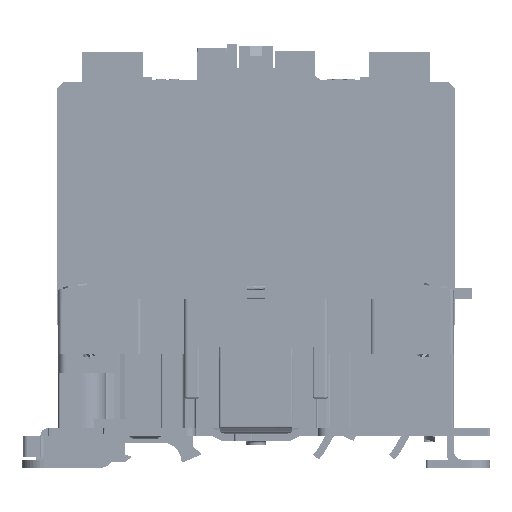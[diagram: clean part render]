
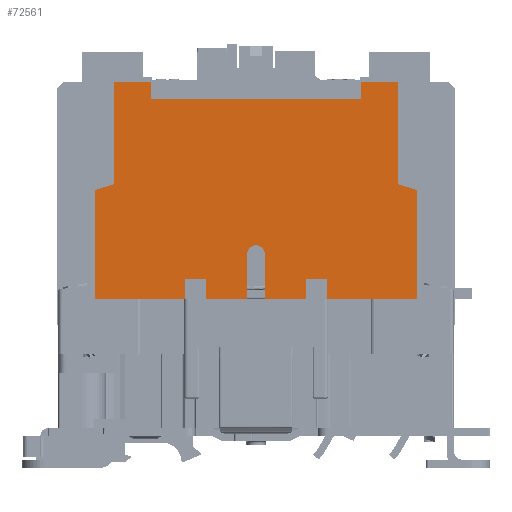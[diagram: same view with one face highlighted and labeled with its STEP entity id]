
A CAD part, front view. The second image highlights one B-rep face of the part: STEP entity #72561.
In plain terms, the highlighted planar face has unit normal (0, -1, 0) as drawn and (1, 0, 0) by its records, which use the part's own axes.
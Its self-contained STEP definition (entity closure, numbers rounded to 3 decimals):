
#69413=DIRECTION('',(0.,0.,-1.));
#69414=VECTOR('',#69413,24.3);
#69415=CARTESIAN_POINT('',(64.05,0.,-19.2));
#69416=LINE('',#69415,#69414);
#69481=DIRECTION('',(0.,0.,-1.));
#69482=VECTOR('',#69481,11.15);
#69483=CARTESIAN_POINT('',(64.05,0.,-2.35));
#69484=LINE('',#69483,#69482);
#69509=DIRECTION('',(0.,0.,-1.));
#69510=VECTOR('',#69509,24.3);
#69511=CARTESIAN_POINT('',(64.05,0.,43.5));
#69512=LINE('',#69511,#69510);
#69525=DIRECTION('',(0.,0.,-1.));
#69526=VECTOR('',#69525,11.15);
#69527=CARTESIAN_POINT('',(64.05,0.,13.5));
#69528=LINE('',#69527,#69526);
#69958=DIRECTION('',(0.,0.,-1.));
#69959=VECTOR('',#69958,10.);
#69960=CARTESIAN_POINT('',(64.05,58.7,38.5));
#69961=LINE('',#69960,#69959);
#69966=DIRECTION('',(0.,0.,-1.));
#69967=VECTOR('',#69966,10.);
#69968=CARTESIAN_POINT('',(64.05,58.7,-28.5));
#69969=LINE('',#69968,#69967);
#70144=DIRECTION('',(0.,1.,0.));
#70145=VECTOR('',#70144,5.3);
#70146=CARTESIAN_POINT('',(64.05,0.,13.5));
#70147=LINE('',#70146,#70145);
#70148=DIRECTION('',(0.,0.,1.));
#70149=VECTOR('',#70148,5.7);
#70150=CARTESIAN_POINT('',(64.05,5.3,13.5));
#70151=LINE('',#70150,#70149);
#70152=DIRECTION('',(0.,1.,0.));
#70153=VECTOR('',#70152,5.3);
#70154=CARTESIAN_POINT('',(64.05,0.,19.2));
#70155=LINE('',#70154,#70153);
#70156=DIRECTION('',(0.,1.,0.));
#70157=VECTOR('',#70156,29.5);
#70158=CARTESIAN_POINT('',(64.05,0.,43.5));
#70159=LINE('',#70158,#70157);
#70160=DIRECTION('',(0.,0.287,-0.958));
#70161=VECTOR('',#70160,5.22);
#70162=CARTESIAN_POINT('',(64.05,29.5,43.5));
#70163=LINE('',#70162,#70161);
#70164=DIRECTION('',(0.,-1.,0.));
#70165=VECTOR('',#70164,27.7);
#70166=CARTESIAN_POINT('',(64.05,58.7,38.5));
#70167=LINE('',#70166,#70165);
#70168=DIRECTION('',(0.,-1.,0.));
#70169=VECTOR('',#70168,4.6);
#70170=CARTESIAN_POINT('',(64.05,58.7,28.5));
#70171=LINE('',#70170,#70169);
#70172=DIRECTION('',(0.,0.,-1.));
#70173=VECTOR('',#70172,57.);
#70174=CARTESIAN_POINT('',(64.05,54.1,28.5));
#70175=LINE('',#70174,#70173);
#70176=DIRECTION('',(0.,-1.,0.));
#70177=VECTOR('',#70176,4.6);
#70178=CARTESIAN_POINT('',(64.05,58.7,-28.5));
#70179=LINE('',#70178,#70177);
#70180=DIRECTION('',(0.,-1.,0.));
#70181=VECTOR('',#70180,27.7);
#70182=CARTESIAN_POINT('',(64.05,58.7,-38.5));
#70183=LINE('',#70182,#70181);
#70184=DIRECTION('',(0.,-0.287,-0.958));
#70185=VECTOR('',#70184,5.22);
#70186=CARTESIAN_POINT('',(64.05,31.,-38.5));
#70187=LINE('',#70186,#70185);
#70188=DIRECTION('',(0.,1.,0.));
#70189=VECTOR('',#70188,29.5);
#70190=CARTESIAN_POINT('',(64.05,0.,-43.5));
#70191=LINE('',#70190,#70189);
#70192=DIRECTION('',(0.,1.,0.));
#70193=VECTOR('',#70192,5.3);
#70194=CARTESIAN_POINT('',(64.05,0.,-19.2));
#70195=LINE('',#70194,#70193);
#70196=DIRECTION('',(0.,0.,1.));
#70197=VECTOR('',#70196,5.7);
#70198=CARTESIAN_POINT('',(64.05,5.3,-19.2));
#70199=LINE('',#70198,#70197);
#70200=DIRECTION('',(0.,1.,0.));
#70201=VECTOR('',#70200,5.3);
#70202=CARTESIAN_POINT('',(64.05,0.,-13.5));
#70203=LINE('',#70202,#70201);
#70204=DIRECTION('',(0.,1.,0.));
#70205=VECTOR('',#70204,12.15);
#70206=CARTESIAN_POINT('',(64.05,0.,-2.35));
#70207=LINE('',#70206,#70205);
#70208=CARTESIAN_POINT('',(64.05,12.15,0.));
#70209=DIRECTION('',(-1.,0.,0.));
#70210=DIRECTION('',(0.,0.,1.));
#70211=AXIS2_PLACEMENT_3D('',#70208,#70209,#70210);
#70213=DIRECTION('',(0.,1.,0.));
#70214=VECTOR('',#70213,12.15);
#70215=CARTESIAN_POINT('',(64.05,0.,2.35));
#70216=LINE('',#70215,#70214);
#71141=CARTESIAN_POINT('',(64.05,54.1,28.5));
#71142=CARTESIAN_POINT('',(64.05,54.1,-28.5));
#71143=VERTEX_POINT('',#71141);
#71144=VERTEX_POINT('',#71142);
#71145=CARTESIAN_POINT('',(64.05,58.7,-28.5));
#71146=VERTEX_POINT('',#71145);
#71147=CARTESIAN_POINT('',(64.05,58.7,28.5));
#71148=VERTEX_POINT('',#71147);
#71317=CARTESIAN_POINT('',(64.05,0.,43.5));
#71319=VERTEX_POINT('',#71317);
#71321=CARTESIAN_POINT('',(64.05,0.,-43.5));
#71323=VERTEX_POINT('',#71321);
#71325=CARTESIAN_POINT('',(64.05,58.7,38.5));
#71327=VERTEX_POINT('',#71325);
#71329=CARTESIAN_POINT('',(64.05,58.7,-38.5));
#71331=VERTEX_POINT('',#71329);
#71333=CARTESIAN_POINT('',(64.05,29.5,43.5));
#71334=VERTEX_POINT('',#71333);
#71335=CARTESIAN_POINT('',(64.05,31.,38.5));
#71336=VERTEX_POINT('',#71335);
#71337=CARTESIAN_POINT('',(64.05,31.,-38.5));
#71338=VERTEX_POINT('',#71337);
#71339=CARTESIAN_POINT('',(64.05,29.5,-43.5));
#71340=VERTEX_POINT('',#71339);
#71510=CARTESIAN_POINT('',(64.05,0.,2.35));
#71512=VERTEX_POINT('',#71510);
#71514=CARTESIAN_POINT('',(64.05,0.,-2.35));
#71516=VERTEX_POINT('',#71514);
#71521=CARTESIAN_POINT('',(64.05,12.15,2.35));
#71522=VERTEX_POINT('',#71521);
#71523=CARTESIAN_POINT('',(64.05,12.15,-2.35));
#71524=VERTEX_POINT('',#71523);
#71573=CARTESIAN_POINT('',(64.05,0.,13.5));
#71574=VERTEX_POINT('',#71573);
#71575=CARTESIAN_POINT('',(64.05,0.,19.2));
#71576=VERTEX_POINT('',#71575);
#71577=CARTESIAN_POINT('',(64.05,0.,-13.5));
#71578=VERTEX_POINT('',#71577);
#71579=CARTESIAN_POINT('',(64.05,0.,-19.2));
#71580=VERTEX_POINT('',#71579);
#71581=CARTESIAN_POINT('',(64.05,5.3,13.5));
#71582=VERTEX_POINT('',#71581);
#71583=CARTESIAN_POINT('',(64.05,5.3,19.2));
#71584=VERTEX_POINT('',#71583);
#71585=CARTESIAN_POINT('',(64.05,5.3,-13.5));
#71586=VERTEX_POINT('',#71585);
#71587=CARTESIAN_POINT('',(64.05,5.3,-19.2));
#71588=VERTEX_POINT('',#71587);
#72514=CARTESIAN_POINT('',(64.05,0.,53.75));
#72515=DIRECTION('',(1.,0.,0.));
#72516=DIRECTION('',(0.,0.,-1.));
#72517=AXIS2_PLACEMENT_3D('',#72514,#72515,#72516);
#72518=PLANE('',#72517);
#72520=ORIENTED_EDGE('',*,*,#72519,.T.);
#72522=ORIENTED_EDGE('',*,*,#72521,.T.);
#72524=ORIENTED_EDGE('',*,*,#72523,.F.);
#72525=ORIENTED_EDGE('',*,*,#71826,.F.);
#72527=ORIENTED_EDGE('',*,*,#72526,.T.);
#72528=ORIENTED_EDGE('',*,*,#72507,.T.);
#72529=ORIENTED_EDGE('',*,*,#72464,.F.);
#72530=ORIENTED_EDGE('',*,*,#72314,.T.);
#72532=ORIENTED_EDGE('',*,*,#72531,.T.);
#72534=ORIENTED_EDGE('',*,*,#72533,.T.);
#72536=ORIENTED_EDGE('',*,*,#72535,.F.);
#72537=ORIENTED_EDGE('',*,*,#72326,.T.);
#72539=ORIENTED_EDGE('',*,*,#72538,.T.);
#72541=ORIENTED_EDGE('',*,*,#72540,.T.);
#72543=ORIENTED_EDGE('',*,*,#72542,.F.);
#72544=ORIENTED_EDGE('',*,*,#71734,.F.);
#72546=ORIENTED_EDGE('',*,*,#72545,.T.);
#72548=ORIENTED_EDGE('',*,*,#72547,.T.);
#72550=ORIENTED_EDGE('',*,*,#72549,.F.);
#72551=ORIENTED_EDGE('',*,*,#71770,.F.);
#72553=ORIENTED_EDGE('',*,*,#72552,.T.);
#72555=ORIENTED_EDGE('',*,*,#72554,.F.);
#72557=ORIENTED_EDGE('',*,*,#72556,.F.);
#72558=ORIENTED_EDGE('',*,*,#71834,.F.);
#72559=EDGE_LOOP('',(#72520,#72522,#72524,#72525,#72527,#72528,#72529,#72530,
#72532,#72534,#72536,#72537,#72539,#72541,#72543,#72544,#72546,#72548,#72550,
#72551,#72553,#72555,#72557,#72558));
#72560=FACE_OUTER_BOUND('',#72559,.F.);
#72561=ADVANCED_FACE('',(#72560),#72518,.T.);
#70212=CIRCLE('',#70211,2.35);
#71734=EDGE_CURVE('',#71580,#71323,#69416,.T.);
#71770=EDGE_CURVE('',#71516,#71578,#69484,.T.);
#71826=EDGE_CURVE('',#71319,#71576,#69512,.T.);
#71834=EDGE_CURVE('',#71574,#71512,#69528,.T.);
#72314=EDGE_CURVE('',#71327,#71148,#69961,.T.);
#72326=EDGE_CURVE('',#71146,#71331,#69969,.T.);
#72464=EDGE_CURVE('',#71327,#71336,#70167,.T.);
#72507=EDGE_CURVE('',#71334,#71336,#70163,.T.);
#72519=EDGE_CURVE('',#71574,#71582,#70147,.T.);
#72521=EDGE_CURVE('',#71582,#71584,#70151,.T.);
#72523=EDGE_CURVE('',#71576,#71584,#70155,.T.);
#72526=EDGE_CURVE('',#71319,#71334,#70159,.T.);
#72531=EDGE_CURVE('',#71148,#71143,#70171,.T.);
#72533=EDGE_CURVE('',#71143,#71144,#70175,.T.);
#72535=EDGE_CURVE('',#71146,#71144,#70179,.T.);
#72538=EDGE_CURVE('',#71331,#71338,#70183,.T.);
#72540=EDGE_CURVE('',#71338,#71340,#70187,.T.);
#72542=EDGE_CURVE('',#71323,#71340,#70191,.T.);
#72545=EDGE_CURVE('',#71580,#71588,#70195,.T.);
#72547=EDGE_CURVE('',#71588,#71586,#70199,.T.);
#72549=EDGE_CURVE('',#71578,#71586,#70203,.T.);
#72552=EDGE_CURVE('',#71516,#71524,#70207,.T.);
#72554=EDGE_CURVE('',#71522,#71524,#70212,.T.);
#72556=EDGE_CURVE('',#71512,#71522,#70216,.T.);
